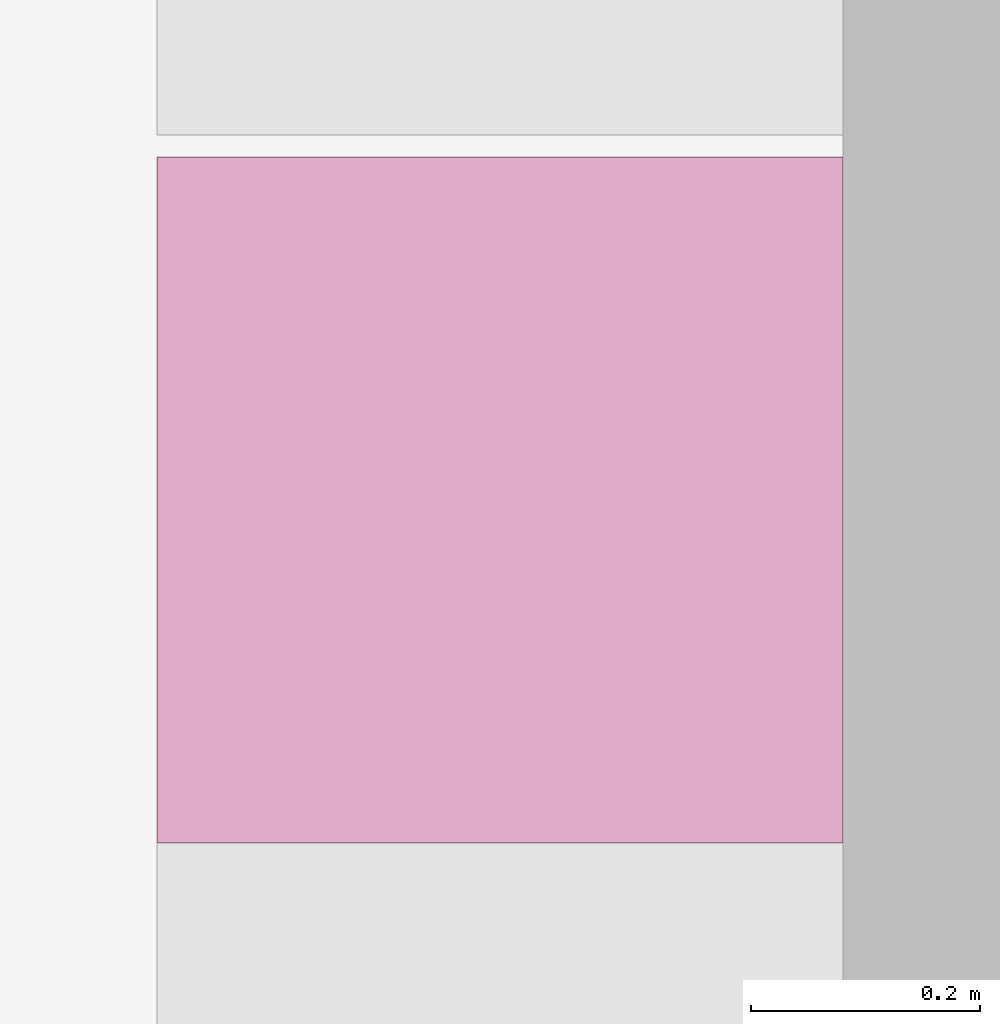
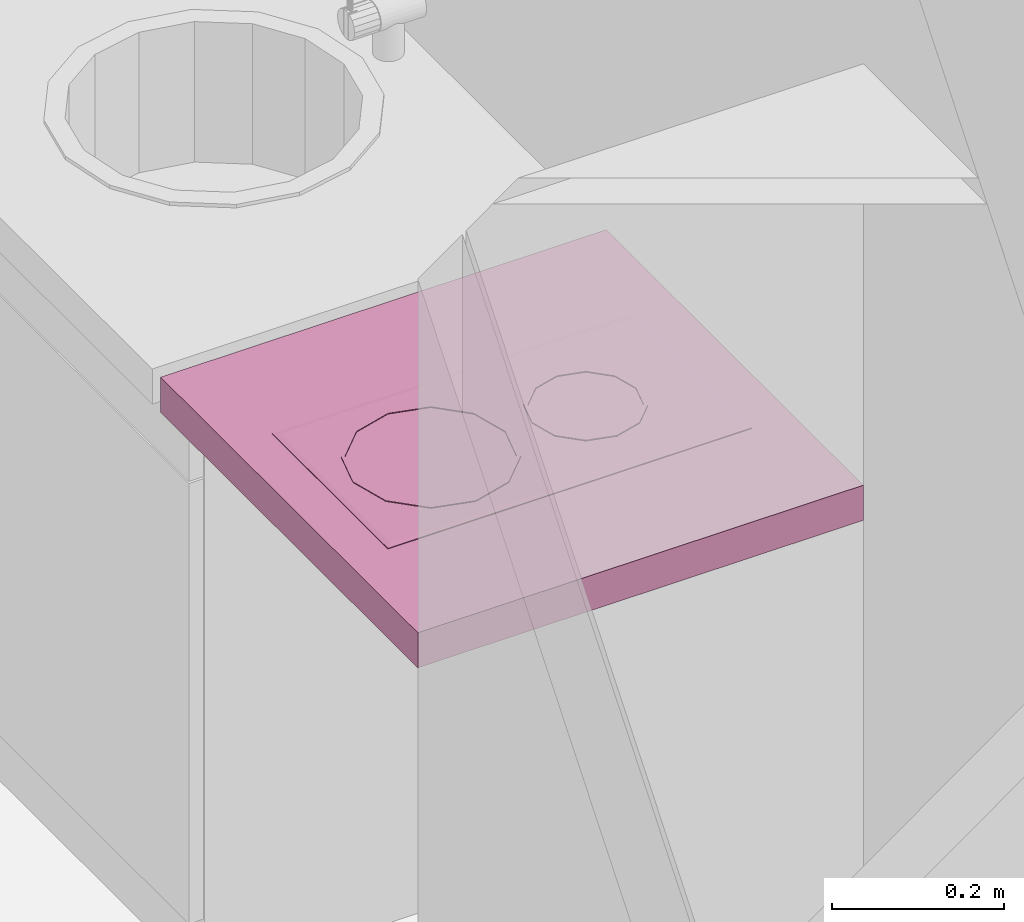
# One storey, part 163 of 165: 1 furnishing.
"""IFC2X3 building model written with IfcOpenShell, lengths in millimetres."""

from ifc_helpers import new_model, entity, si_unit, converted_unit, money_unit, direction, frame, origin_with_axes, place, context, subcontext, project, spatial, faceted_brep, source, transform, mapped, material, material_list, type_object, element, save


model = new_model("IFC2X3")

# Units and contexts
model_context = context("Model", 3, precision=1e-05, world=origin_with_axes(), true_north=direction((0.0, 1.0)))
body_context = subcontext(model_context, "Body", "Model", "MODEL_VIEW")
ifc_project = project(units=[si_unit("LENGTHUNIT", "METRE", prefix="MILLI"), si_unit("AREAUNIT", "SQUARE_METRE"), si_unit("VOLUMEUNIT", "CUBIC_METRE"), converted_unit("PLANEANGLEUNIT", "DEGREE", entity("IfcPlaneAngleMeasure", 0.0174532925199), si_unit("PLANEANGLEUNIT", "RADIAN"), dimensions=[0, 0, 0, 0, 0, 0, 0]), si_unit("SOLIDANGLEUNIT", "STERADIAN"), money_unit("USD"), converted_unit("TIMEUNIT", "Year", entity("IfcTimeMeasure", 31556926.0), si_unit("TIMEUNIT", "SECOND"), dimensions=[0, 0, 0, 0, 0, 0, 0]), si_unit("MASSUNIT", "GRAM"), si_unit("THERMODYNAMICTEMPERATUREUNIT", "DEGREE_CELSIUS"), si_unit("LUMINOUSINTENSITYUNIT", "LUMEN")], contexts=[model_context])

# Site, building, storey
site_placement = place(None, origin_with_axes())
site = spatial("IfcSite", under=ifc_project, at=site_placement, Name="Site", CompositionType="ELEMENT")
building_placement = place(site_placement, origin_with_axes())
building = spatial("IfcBuilding", under=site, at=building_placement, Name="Building", CompositionType="ELEMENT")
storey_placement = place(building_placement, frame((0.0, 0.0, 6300.0), z_axis=(0.0, 0.0, 1.0), x_axis=(1.0, 0.0, 0.0)))
storey = spatial("IfcBuildingStorey", under=building, at=storey_placement, Name="4KORRUS", CompositionType="ELEMENT", Elevation=6300.0)

# Furnishing
ifc_material = material(Name="Background")
ifc_material_list = material_list([ifc_material])
furnishing_element_type = type_object("IfcFurnishingElementType", Name="Built-in Cooktops 19")
shared_shape = source(origin_with_axes(), body_context, "Body", "Brep", [
    faceted_brep([(0.0, 0.0, 850.0), (600.0, 0.0, 850.0), (600.0, 0.0, 900.0), (0.0, 0.0, 900.0), (0.0, 600.0, 850.0), (600.0, 600.0, 850.0), (600.0, 600.0, 900.0), (0.0, 600.0, 900.0)], [[[0, 1, 2, 3]], [[0, 4, 5, 1]], [[1, 5, 6, 2]], [[3, 2, 6, 7]], [[4, 0, 3, 7]], [[5, 4, 7, 6]]]),
    faceted_brep([(165.0, 55.0, 900.0), (165.0, 545.0, 900.0), (435.0, 545.0, 900.0), (435.0, 55.0, 900.0), (165.0, 55.0, 900.8), (165.0, 545.0, 900.8), (435.0, 545.0, 900.8), (435.0, 55.0, 900.8), (171.806, 61.806, 902.0), (171.806, 538.194, 902.0), (428.194, 538.194, 902.0), (428.194, 61.806, 902.0)], [[[0, 1, 2, 3]], [[1, 0, 4, 5]], [[2, 1, 5, 6]], [[3, 2, 6, 7]], [[0, 3, 7, 4]], [[5, 4, 8, 9]], [[6, 5, 9, 10]], [[7, 6, 10, 11]], [[4, 7, 11, 8]], [[10, 9, 8, 11]]]),
    faceted_brep([(195.0, 409.27, 902.0), (209.067, 356.77, 902.0), (209.067, 356.77, 903.0), (195.0, 409.27, 903.0), (209.067, 461.77, 902.0), (247.5, 500.203, 902.0), (300.0, 514.27, 902.0), (352.5, 500.203, 902.0), (390.933, 461.77, 902.0), (405.0, 409.27, 902.0), (390.933, 356.77, 902.0), (352.5, 318.337, 902.0), (300.0, 304.27, 902.0), (247.5, 318.337, 902.0), (200.0, 409.27, 902.0), (213.397, 359.27, 902.0), (250.0, 322.667, 902.0), (300.0, 309.27, 902.0), (350.0, 322.667, 902.0), (386.603, 359.27, 902.0), (400.0, 409.27, 902.0), (386.603, 459.27, 902.0), (350.0, 495.873, 902.0), (300.0, 509.27, 902.0), (250.0, 495.873, 902.0), (213.397, 459.27, 902.0), (247.5, 318.337, 903.0), (300.0, 304.27, 903.0), (352.5, 318.337, 903.0), (390.933, 356.77, 903.0), (405.0, 409.27, 903.0), (390.933, 461.77, 903.0), (352.5, 500.203, 903.0), (300.0, 514.27, 903.0), (247.5, 500.203, 903.0), (209.067, 461.77, 903.0), (200.0, 409.27, 903.0), (213.397, 459.27, 903.0), (250.0, 495.873, 903.0), (300.0, 509.27, 903.0), (350.0, 495.873, 903.0), (386.603, 459.27, 903.0), (400.0, 409.27, 903.0), (386.603, 359.27, 903.0), (350.0, 322.667, 903.0), (300.0, 309.27, 903.0), (250.0, 322.667, 903.0), (213.397, 359.27, 903.0)], [[[0, 1, 2, 3]], [[0, 4, 5, 6, 7, 8, 9, 10, 11, 12, 13, 1], [14, 15, 16, 17, 18, 19, 20, 21, 22, 23, 24, 25]], [[1, 13, 26, 2]], [[3, 2, 26, 27, 28, 29, 30, 31, 32, 33, 34, 35], [36, 37, 38, 39, 40, 41, 42, 43, 44, 45, 46, 47]], [[4, 0, 3, 35]], [[5, 4, 35, 34]], [[6, 5, 34, 33]], [[7, 6, 33, 32]], [[8, 7, 32, 31]], [[9, 8, 31, 30]], [[10, 9, 30, 29]], [[11, 10, 29, 28]], [[12, 11, 28, 27]], [[13, 12, 27, 26]], [[15, 14, 36, 47]], [[16, 15, 47, 46]], [[17, 16, 46, 45]], [[18, 17, 45, 44]], [[19, 18, 44, 43]], [[20, 19, 43, 42]], [[21, 20, 42, 41]], [[22, 21, 41, 40]], [[23, 22, 40, 39]], [[24, 23, 39, 38]], [[25, 24, 38, 37]], [[14, 25, 37, 36]]]),
    faceted_brep([(227.5, 200.53, 902.0), (237.213, 164.28, 902.0), (237.213, 164.28, 903.0), (227.5, 200.53, 903.0), (237.213, 236.78, 902.0), (263.75, 263.317, 902.0), (300.0, 273.03, 902.0), (336.25, 263.317, 902.0), (362.787, 236.78, 902.0), (372.5, 200.53, 902.0), (362.787, 164.28, 902.0), (336.25, 137.743, 902.0), (300.0, 128.03, 902.0), (263.75, 137.743, 902.0), (232.5, 200.53, 902.0), (241.543, 166.78, 902.0), (266.25, 142.073, 902.0), (300.0, 133.03, 902.0), (333.75, 142.073, 902.0), (358.457, 166.78, 902.0), (367.5, 200.53, 902.0), (358.457, 234.28, 902.0), (333.75, 258.987, 902.0), (300.0, 268.03, 902.0), (266.25, 258.987, 902.0), (241.543, 234.28, 902.0), (263.75, 137.743, 903.0), (300.0, 128.03, 903.0), (336.25, 137.743, 903.0), (362.787, 164.28, 903.0), (372.5, 200.53, 903.0), (362.787, 236.78, 903.0), (336.25, 263.317, 903.0), (300.0, 273.03, 903.0), (263.75, 263.317, 903.0), (237.213, 236.78, 903.0), (232.5, 200.53, 903.0), (241.543, 234.28, 903.0), (266.25, 258.987, 903.0), (300.0, 268.03, 903.0), (333.75, 258.987, 903.0), (358.457, 234.28, 903.0), (367.5, 200.53, 903.0), (358.457, 166.78, 903.0), (333.75, 142.073, 903.0), (300.0, 133.03, 903.0), (266.25, 142.073, 903.0), (241.543, 166.78, 903.0)], [[[0, 1, 2, 3]], [[0, 4, 5, 6, 7, 8, 9, 10, 11, 12, 13, 1], [14, 15, 16, 17, 18, 19, 20, 21, 22, 23, 24, 25]], [[1, 13, 26, 2]], [[3, 2, 26, 27, 28, 29, 30, 31, 32, 33, 34, 35], [36, 37, 38, 39, 40, 41, 42, 43, 44, 45, 46, 47]], [[4, 0, 3, 35]], [[5, 4, 35, 34]], [[6, 5, 34, 33]], [[7, 6, 33, 32]], [[8, 7, 32, 31]], [[9, 8, 31, 30]], [[10, 9, 30, 29]], [[11, 10, 29, 28]], [[12, 11, 28, 27]], [[13, 12, 27, 26]], [[15, 14, 36, 47]], [[16, 15, 47, 46]], [[17, 16, 46, 45]], [[18, 17, 45, 44]], [[19, 18, 44, 43]], [[20, 19, 43, 42]], [[21, 20, 42, 41]], [[22, 21, 41, 40]], [[23, 22, 40, 39]], [[24, 23, 39, 38]], [[25, 24, 38, 37]], [[14, 25, 37, 36]]]),
])
furnishing_placement = place(storey_placement, frame((11709.7032967, -14647.2296956, 0.0), z_axis=(0.0, 0.0, 1.0), x_axis=(0.0, 1.0, 0.0)))
element("IfcFurnishingElement", 1, at=furnishing_placement, inside=storey, type_object=furnishing_element_type, material=ifc_material_list, Name="FU - 007", context=body_context, shape_type="MappedRepresentation", body=[
    mapped(shared_shape, transform((0.0, 0.0, 0.0))),
])

save(model, "model.ifc")
